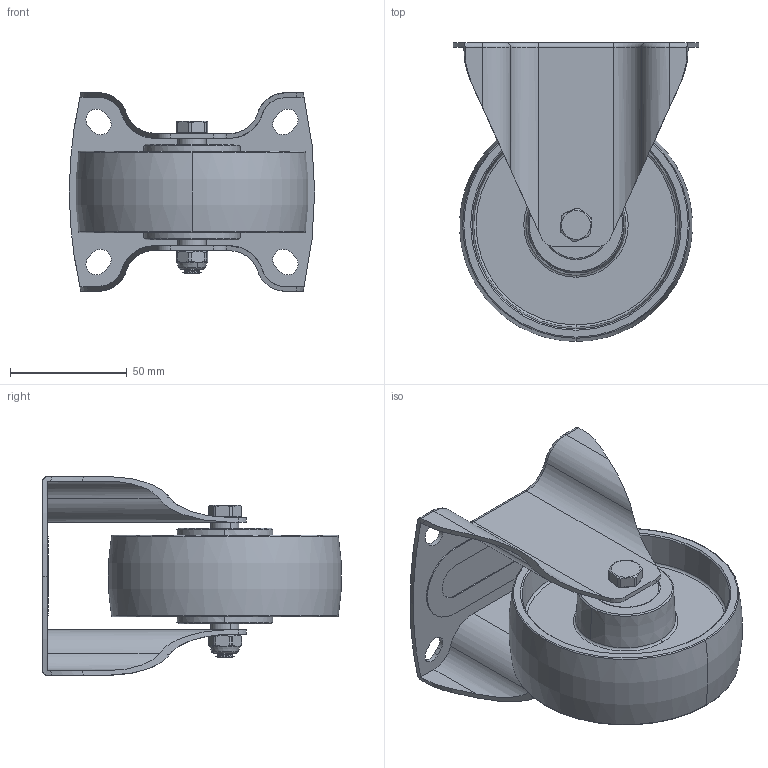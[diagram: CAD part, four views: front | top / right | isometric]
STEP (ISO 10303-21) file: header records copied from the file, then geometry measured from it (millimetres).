
FILE_DESCRIPTION (( 'STEP AP203' ), '1' );
FILE_NAME ('wn8660-fp-100-Wiberger.step', '2026-08-03T06:32:04', ( '' ), ( '' ), 'SwSTEP 2.0', 'SolidWorks 2024', '' );
FILE_SCHEMA (( 'CONFIG_CONTROL_DESIGN' ));
Length unit declared in the file: millimetre
Products named in the file (8): Screw_9520860B-RF_9520860B-RF_Swede-Wheel; Wheel_3610036122N_3610036122N_Swede-Wheel; Bracket_5B1066-RF_5B1066-RF_Swede-Wheel; Spacer_9326-RF_9326-RF_Swede-Wheel; wn8660-fp-100-Wiberger; Hub_3610036122N_3610036122N_Swede-Wheel; Nut_9540806B-RF_9540806B-RF_Swede-Wheel
Assembly tree (7 placements, depth 3):
  wn8660-fp-100-Wiberger
    Bracket_5B1066-RF_5B1066-RF_Swede-Wheel
    Wheel_3610036122N_3610036122N_Swede-Wheel
      Hub_3610036122N_3610036122N_Swede-Wheel
    Spacer_9326-RF_9326-RF_Swede-Wheel
      Spacer_9326-RF_9326-RF_Swede-Wheel
    Nut_9540806B-RF_9540806B-RF_Swede-Wheel
    Screw_9520860B-RF_9520860B-RF_Swede-Wheel
Bounding box: 105 x 127.84 x 85 mm (x, y, z)
Volume: 181352 mm3; surface area: 83444 mm2
Topology: 5 solids, 5 shells, 366 faces, 854 edges, 510 vertices
Faces by surface type: cylinder 113, cone 93, torus 92, plane 64, bspline 4
Entity records: 11582 total; most frequent: CARTESIAN_POINT 2130, DIRECTION 2028, ORIENTED_EDGE 1708, AXIS2_PLACEMENT_3D 860, EDGE_CURVE 854, VERTEX_POINT 510, CIRCLE 486, EDGE_LOOP 396
